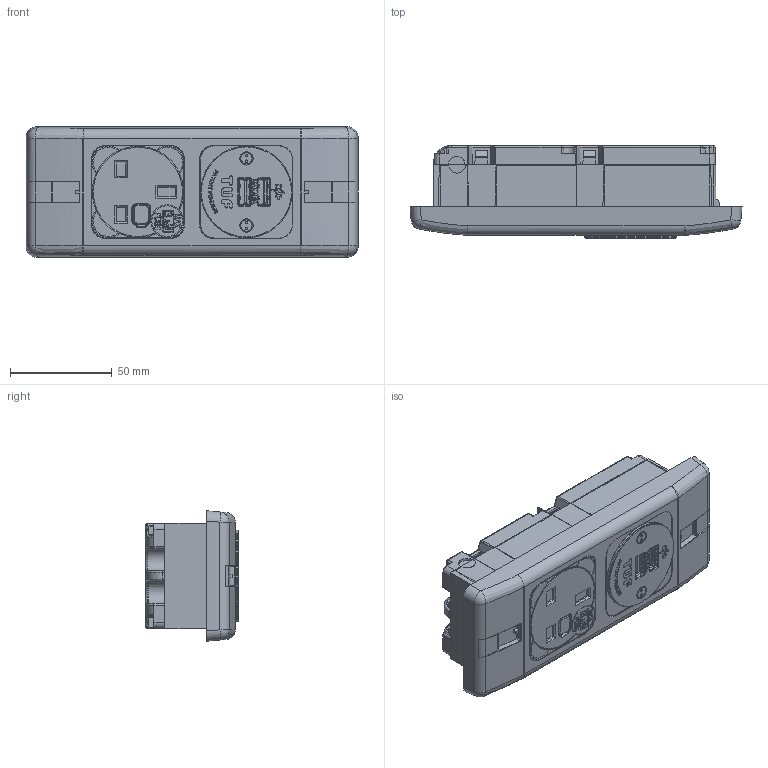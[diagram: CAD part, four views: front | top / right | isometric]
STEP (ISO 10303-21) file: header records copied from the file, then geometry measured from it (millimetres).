
FILE_DESCRIPTION((''),'2;1');
FILE_NAME('P:\Manufacturing\Autocad drawings\Inventor\blocks\puma-block\PUMA 2 gang UK TUF.stp','2017-11-28T10:32:38',('Jamie.clark'),(''),'Autodesk Inventor 2012','Autodesk Inventor 2012','');
FILE_SCHEMA(('AUTOMOTIVE_DESIGN { 1 0 10303 214 1 1 1 1 }'));
Length unit declared in the file: millimetre
Products named in the file (11): PUMA 2 gang UK TUF; puma-box-block RH; puma-box-block LH; Puma 2G Base BLOCK; TUF R 42Dia with screws; usb-pcb-mount; 42 Dia fascia TUF-R with screw hole derived; Snake eye screw; blank-block with lugs 45mm cutout; new-skt-block; Puma 2G Cover block
Assembly tree (12 placements, depth 3):
  PUMA 2 gang UK TUF
    puma-box-block RH
    puma-box-block LH
    Puma 2G Base BLOCK
    TUF R 42Dia with screws
      usb-pcb-mount  x2
      42 Dia fascia TUF-R with screw hole derived
      Snake eye screw  x2
    blank-block with lugs 45mm cutout
    new-skt-block
    Puma 2G Cover block
Bounding box: 163 x 45.5 x 64 mm (x, y, z)
Volume: 205775.6 mm3; surface area: 99211.4 mm2
Topology: 12 solids, 46 shells, 2828 faces, 7577 edges, 4917 vertices
Faces by surface type: plane 1902, cylinder 395, bspline 294, cone 189, sphere 26, torus 22
Full cylindrical faces by diameter (mm): 1.2 x4, 5.106 x2, 5.5 x2, 6.6 x2, 15.1 x1, 44.776 x1, 44.8 x2, 45 x1
Entity records: 99495 total; most frequent: CARTESIAN_POINT 33019, ORIENTED_EDGE 13964, DIRECTION 12411, EDGE_CURVE 6982, VECTOR 5091, LINE 5091, VERTEX_POINT 4560, AXIS2_PLACEMENT_3D 3660
